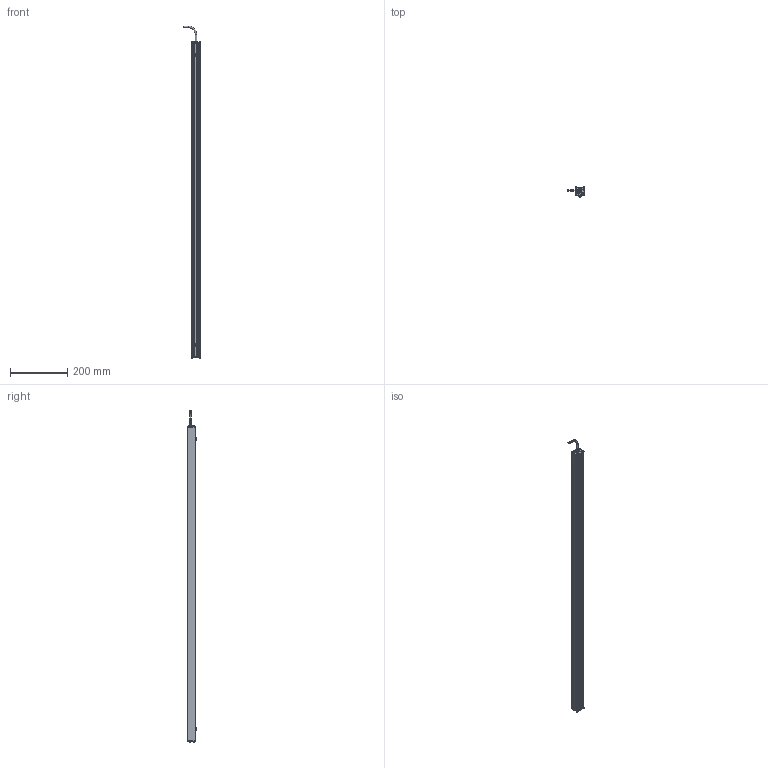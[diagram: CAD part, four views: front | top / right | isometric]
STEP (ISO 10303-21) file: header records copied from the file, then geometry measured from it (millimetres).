
FILE_DESCRIPTION (( 'STEP AP214' ), '1' );
FILE_NAME ('AL150XXXX_AL150252.stp', '2021-04-29T15:41:30', ( '' ), ( '' ), 'SwSTEP 2.0', 'SolidWorks 2018', '' );
FILE_SCHEMA (( 'AUTOMOTIVE_DESIGN' ));
Length unit declared in the file: inch
Products named in the file (12): AL150XXXX_AL150252; 093145_93701A253; 1157 (no strap); HN-M6_90592A016; 116-02-006; Part1^AL150XXXX; 116-02-007; CHM6x8_91460A312; 150-01-005-XXX_150-01-005-252; 092408_TRUNCATED; 150-03-006-XXXX_150-03-006-252; Part2^AL150XXXX
Assembly tree (18 placements, depth 2):
  AL150XXXX_AL150252
    150-01-005-XXX_150-01-005-252
    116-02-006
    093145_93701A253  x8
    HN-M6_90592A016  x2
    CHM6x8_91460A312  x2
    150-03-006-XXXX_150-03-006-252
    116-02-007
    1157 (no strap)
    092408_TRUNCATED
  Part1^AL150XXXX
  Part2^AL150XXXX
Bounding box: 60.68 x 33.84 x 1163.88 mm (x, y, z)
Volume: 344616.6 mm3; surface area: 365531.9 mm2
Topology: 26 solids, 26 shells, 1306 faces, 3436 edges, 2127 vertices
Faces by surface type: cylinder 805, cone 249, plane 153, torus 59, bspline 32, sphere 8
Entity records: 18285 total; most frequent: CARTESIAN_POINT 6069, ORIENTED_EDGE 2496, DIRECTION 2311, EDGE_CURVE 1248, AXIS2_PLACEMENT_3D 881, VERTEX_POINT 800, LINE 549, VECTOR 549
